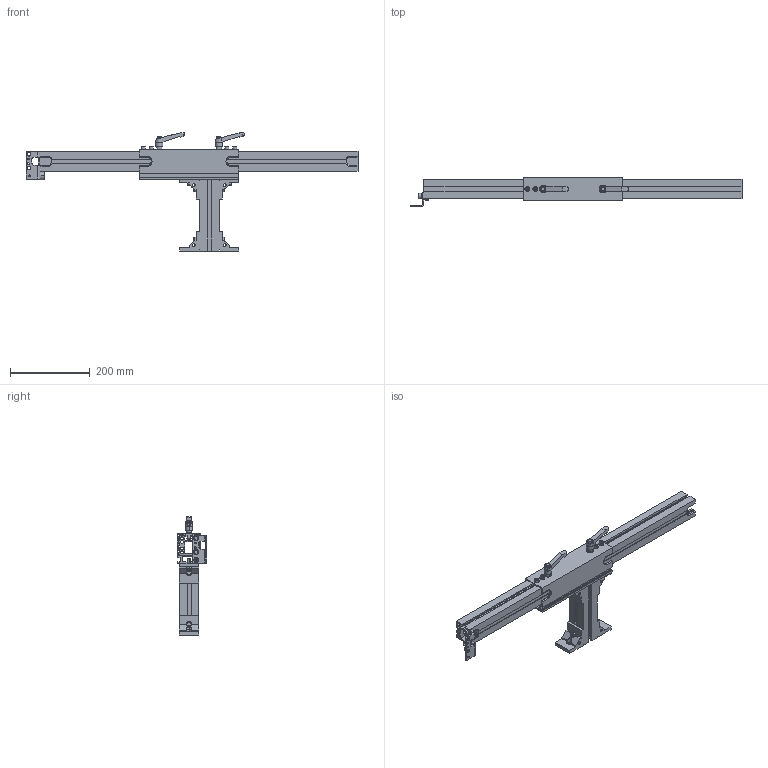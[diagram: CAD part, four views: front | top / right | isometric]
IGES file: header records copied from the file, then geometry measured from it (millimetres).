
Start section:  PTC IGES file: 2007761
Global section: file name: 2007761; native system: Pro/ENGINEER by Parametric Technology Corporation; preprocessor: 2009380; author: veit; organization: Unknown; date: 20100823.150629; units: millimetre
Bounding box: 835 x 75 x 297.29 mm (x, y, z)
Surface area: 731907.9 mm2 (no closed solid volume)
Topology: 0 solids, 0 shells, 757 faces, 4096 edges, 4088 vertices
Faces by surface type: bspline 439, revolution 318
